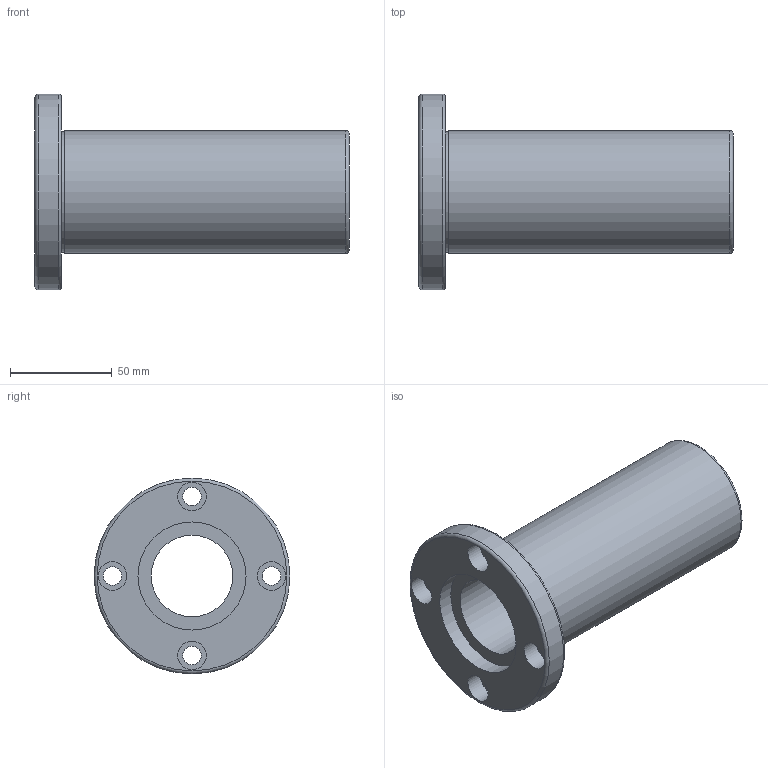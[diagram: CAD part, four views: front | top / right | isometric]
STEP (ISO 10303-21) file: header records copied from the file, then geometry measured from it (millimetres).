
FILE_DESCRIPTION( ( 'Unknown' ), '1' );
FILE_NAME( 'D:/累诀/己绕皋墨飘肺葱胶/11-04-06_档搁累己/01_府聪绢何教/LMF L/LMF 40L.stp', 'Unknown', ( 'Unknown' ), ( 'Unknown' ), 'PSStep 11.0', 'Unknown', ' ' );
FILE_SCHEMA( ( 'AUTOMOTIVE_DESIGN { 1 0 10303 214 1 1 1 1 }' ) );
Length unit declared in the file: millimetre
Products named in the file (1): 1
Bounding box: 154 x 96 x 96 mm (x, y, z)
Volume: 277685.4 mm3; surface area: 63614.1 mm2
Topology: 1 solids, 1 shells, 27 faces, 51 edges, 34 vertices
Faces by surface type: cylinder 14, plane 10, torus 3
Full cylindrical faces by diameter (mm): 9 x4, 14 x4, 40 x1, 53 x2, 59 x1, 60 x1, 96 x1
Entity records: 836 total; most frequent: DIRECTION 118, CARTESIAN_POINT 90, EDGE_LOOP 62, ORIENTED_EDGE 62, AXIS2_PLACEMENT_3D 59, FACE_OUTER_BOUND 44, EDGE_CURVE 31, VERTEX_POINT 31
